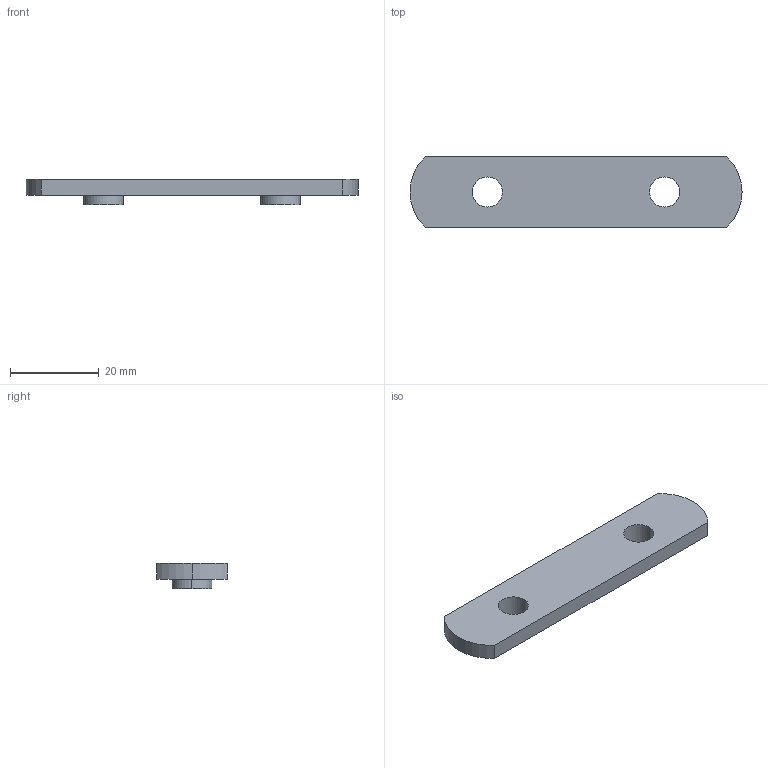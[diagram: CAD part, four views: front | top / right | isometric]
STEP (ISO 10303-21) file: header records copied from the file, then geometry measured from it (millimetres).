
FILE_DESCRIPTION (( 'STEP AP214' ), '1' );
FILE_NAME ('LXJ-2DTN.step', '2018-04-25T15:33:18', ( '' ), ( '' ), 'SwSTEP 2.0', 'SolidWorks 2018', '' );
FILE_SCHEMA (( 'AUTOMOTIVE_DESIGN' ));
Length unit declared in the file: millimetre
Products named in the file (1): LXJ-2DTN
Bounding box: 75 x 16 x 5.7 mm (x, y, z)
Volume: 4048.8 mm3; surface area: 3166.9 mm2
Topology: 1 solids, 1 shells, 17 faces, 39 edges, 26 vertices
Faces by surface type: cylinder 11, plane 6
Entity records: 581 total; most frequent: DIRECTION 97, CARTESIAN_POINT 83, ORIENTED_EDGE 78, AXIS2_PLACEMENT_3D 40, EDGE_CURVE 39, VERTEX_POINT 26, EDGE_LOOP 23, CIRCLE 22
